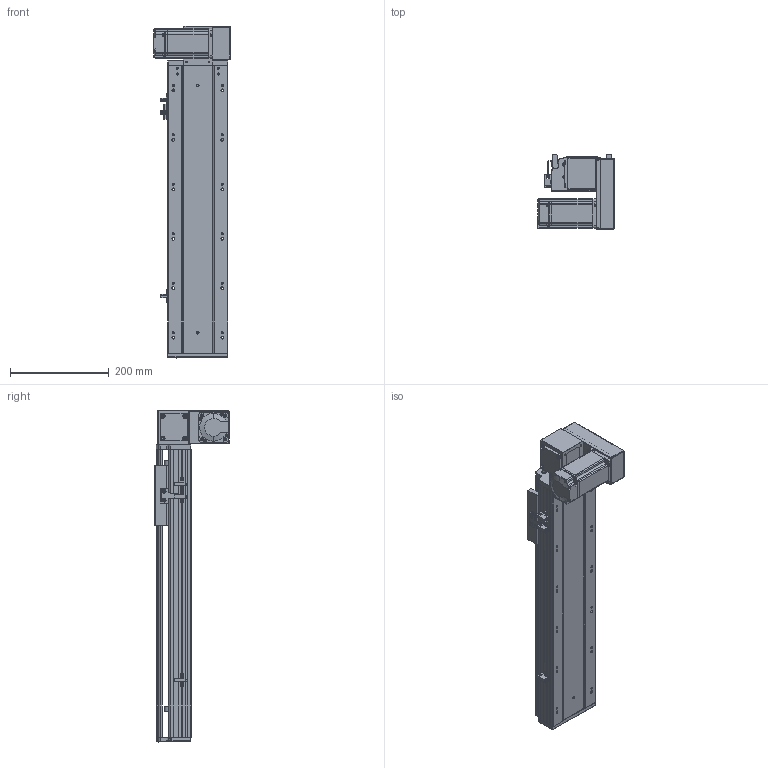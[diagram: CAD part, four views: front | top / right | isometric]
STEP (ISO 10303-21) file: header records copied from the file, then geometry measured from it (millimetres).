
FILE_DESCRIPTION (( 'STEP AP203' ), '1' );
FILE_NAME ('RY120-T-300-DR.SLDASM_350.step', '2021-03-01T03:34:38', ( '盈信电脑' ), ( '东莞市道滘镇水果街19号' ), 'SwSTEP 2.0', 'SolidWorks 2012', '' );
FILE_SCHEMA (( 'CONFIG_CONTROL_DESIGN' ));
Length unit declared in the file: millimetre
Products named in the file (17): RY120-T主同步轮轴承压盖; RY120-T-300-DR.SLDASM_350; RY120-T蹟翐M4; RY120-T萇儂假蚾啣; RY120-T萇儂欶; 15; RY120-T翋肮祭謫裔啣; RY120-T翋肮祭盓傅釱; 滅袉蝶18-10; RY120-T肮祭湍揤踡輸1; 覜茼ん672; RY120-T肮祭湍揤踡輸2; RY120外置感应片(140共用）; RY120-T-300-DR倰第菁釱_350; RY120綴裔啣; RY120肮祭湍臏賑輸; RY120-T-300-DR倰第奻裔啣_350
Assembly tree (22 placements, depth 2):
  RY120-T-300-DR.SLDASM_350
    RY120-T-300-DR倰第菁釱_350
    RY120-T-300-DR倰第奻裔啣_350
    RY120肮祭湍臏賑輸
    RY120綴裔啣
    覜茼ん672  x3
    RY120外置感应片(140共用）
    RY120-T肮祭湍揤踡輸1
    RY120-T肮祭湍揤踡輸2
    RY120-T翋肮祭盓傅釱
    滅袉蝶18-10  x2
    RY120-T翋肮祭謫裔啣
    15
    RY120-T萇儂假蚾啣
    RY120-T蹟翐M4  x4
    RY120-T萇儂欶
    RY120-T主同步轮轴承压盖
Bounding box: 155.5 x 150 x 671 mm (x, y, z)
Volume: 2191903.9 mm3; surface area: 786987.6 mm2
Topology: 23 solids, 23 shells, 2690 faces, 7332 edges, 4728 vertices
Faces by surface type: plane 1406, cylinder 990, cone 205, bspline 89
Entity records: 85435 total; most frequent: CARTESIAN_POINT 21566, ORIENTED_EDGE 13176, DIRECTION 12434, EDGE_CURVE 6588, VERTEX_POINT 4315, LINE 4180, VECTOR 4180, AXIS2_PLACEMENT_3D 4127
